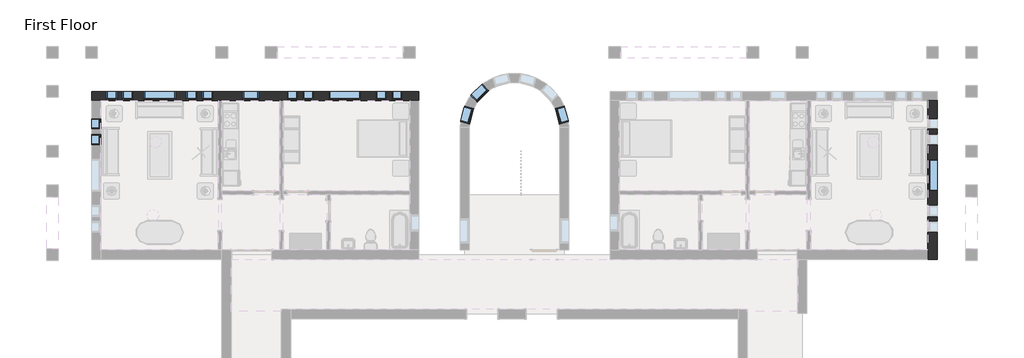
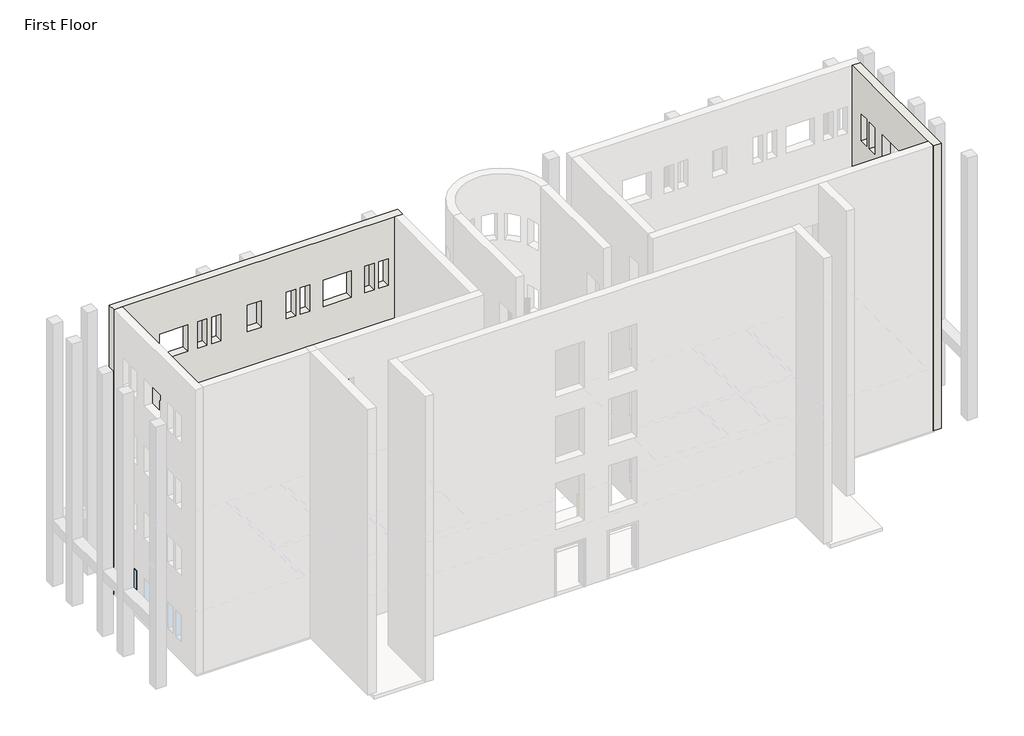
# One storey, part 14 of 23: 17 windows, 2 walls.
"""IFC4 building model written with IfcOpenShell, lengths in millimetres."""

from ifc_helpers import new_model, si_unit, origin, place, context, project, spatial, faceted_brep, transform, mapped, element, save
from components import m_fixed_0406_x_1220mm_57fee329, m_fixed_0406_x_1220mm_85c28f40, m_fixed_0610_x_1220mm_2c28ef1d, m_fixed_0610_x_1220mm_1ea27827, m_fixed_1220_x_1220mm_e08ff7af, m_fixed_1220_x_1220mm_8f5f8ad3

model = new_model("IFC4")

# Units and contexts
model_context = context("Model", 3, world=origin())
ifc_project = project(units=[si_unit("LENGTHUNIT", "METRE", prefix="MILLI")], contexts=[model_context])

# Site, building, storey
site = spatial("IfcSite", under=ifc_project)
building = spatial("IfcBuilding", under=site)
storey = spatial("IfcBuildingStorey", under=building, Name="First Floor", Elevation=0.0)

# Walls
placement = place(None, origin())
element("IfcWall", 1, ObjectType="Exterior - Brick on Mtl. Stud", at=placement, inside=storey, context=model_context, shape_type="Brep", body=[
    faceted_brep([(-3093.3416203, 2406.1188386, 0.0), (-3093.3416203, -3339.8811614, 0.0), (-3093.3416203, -3504.8811614, 0.0), (-3093.3416203, -3689.8811614, 0.0), (-3093.3416203, -3689.8811614, 13107.0), (-3093.3416203, -3339.8811614, 13107.0), (-3093.3416203, 2406.1188386, 13107.0), (-3093.3416203, -1076.8811614, 915.0), (-3093.3416203, 143.1188386, 915.0), (-3093.3416203, 143.1188386, 2135.0), (-3093.3416203, -1076.8811614, 2135.0), (-3093.3416203, 701.1188386, 915.0), (-3093.3416203, 1107.1188386, 915.0), (-3093.3416203, 1107.1188386, 2135.0), (-3093.3416203, 701.1188386, 2135.0), (-3093.3416203, 1311.1188386, 915.0), (-3093.3416203, 1717.1188386, 915.0), (-3093.3416203, 1717.1188386, 2135.0), (-3093.3416203, 1311.1188386, 2135.0), (-3093.3416203, -1634.8811614, 915.0), (-3093.3416203, -1634.8811614, 2135.0), (-3093.3416203, -2040.8811614, 2135.0), (-3093.3416203, -2040.8811614, 915.0), (-3093.3416203, -2244.8811614, 915.0), (-3093.3416203, -2244.8811614, 2135.0), (-3093.3416203, -2650.8811614, 2135.0), (-3093.3416203, -2650.8811614, 915.0), (-3093.3416203, -1634.8811614, 10059.0), (-3093.3416203, -1634.8811614, 11279.0), (-3093.3416203, -2040.8811614, 11279.0), (-3093.3416203, -2040.8811614, 10059.0), (-3093.3416203, -2244.8811614, 10059.0), (-3093.3416203, -2244.8811614, 11279.0), (-3093.3416203, -2650.8811614, 11279.0), (-3093.3416203, -2650.8811614, 10059.0), (-3093.3416203, 701.1188386, 10059.0), (-3093.3416203, 1107.1188386, 10059.0), (-3093.3416203, 1107.1188386, 11279.0), (-3093.3416203, 701.1188386, 11279.0), (-3093.3416203, 1311.1188386, 10059.0), (-3093.3416203, 1717.1188386, 10059.0), (-3093.3416203, 1717.1188386, 11279.0), (-3093.3416203, 1311.1188386, 11279.0), (-3093.3416203, -1076.8811614, 10059.0), (-3093.3416203, 143.1188386, 10059.0), (-3093.3416203, 143.1188386, 11279.0), (-3093.3416203, -1076.8811614, 11279.0), (-3093.3416203, -1634.8811614, 3963.0), (-3093.3416203, -1634.8811614, 5183.0), (-3093.3416203, -2040.8811614, 5183.0), (-3093.3416203, -2040.8811614, 3963.0), (-3093.3416203, -2244.8811614, 3963.0), (-3093.3416203, -2244.8811614, 5183.0), (-3093.3416203, -2650.8811614, 5183.0), (-3093.3416203, -2650.8811614, 3963.0), (-3093.3416203, 701.1188386, 3963.0), (-3093.3416203, 1107.1188386, 3963.0), (-3093.3416203, 1107.1188386, 5183.0), (-3093.3416203, 701.1188386, 5183.0), (-3093.3416203, 1311.1188386, 3963.0), (-3093.3416203, 1717.1188386, 3963.0), (-3093.3416203, 1717.1188386, 5183.0), (-3093.3416203, 1311.1188386, 5183.0), (-3093.3416203, -1076.8811614, 3963.0), (-3093.3416203, 143.1188386, 3963.0), (-3093.3416203, 143.1188386, 5183.0), (-3093.3416203, -1076.8811614, 5183.0), (-3093.3416203, -1634.8811614, 7011.0), (-3093.3416203, -1634.8811614, 8231.0), (-3093.3416203, -2040.8811614, 8231.0), (-3093.3416203, -2040.8811614, 7011.0), (-3093.3416203, -2244.8811614, 7011.0), (-3093.3416203, -2244.8811614, 8231.0), (-3093.3416203, -2650.8811614, 8231.0), (-3093.3416203, -2650.8811614, 7011.0), (-3093.3416203, 701.1188386, 7011.0), (-3093.3416203, 1107.1188386, 7011.0), (-3093.3416203, 1107.1188386, 8231.0), (-3093.3416203, 701.1188386, 8231.0), (-3093.3416203, 1311.1188386, 7011.0), (-3093.3416203, 1717.1188386, 7011.0), (-3093.3416203, 1717.1188386, 8231.0), (-3093.3416203, 1311.1188386, 8231.0), (-3093.3416203, -1076.8811614, 7011.0), (-3093.3416203, 143.1188386, 7011.0), (-3093.3416203, 143.1188386, 8231.0), (-3093.3416203, -1076.8811614, 8231.0), (-2743.3416203, 2406.1188386, 0.0), (-2743.3416203, 2406.1188386, 13107.0), (-2743.3416203, -3689.8811614, 13107.0), (-2743.3416203, -3689.8811614, 0.0), (-2743.3416203, -3504.8811614, 0.0), (-2743.3416203, -1076.8811614, 915.0), (-2743.3416203, -1076.8811614, 2135.0), (-2743.3416203, 143.1188386, 2135.0), (-2743.3416203, 143.1188386, 915.0), (-2743.3416203, 701.1188386, 915.0), (-2743.3416203, 701.1188386, 2135.0), (-2743.3416203, 1107.1188386, 2135.0), (-2743.3416203, 1107.1188386, 915.0), (-2743.3416203, 1311.1188386, 915.0), (-2743.3416203, 1311.1188386, 2135.0), (-2743.3416203, 1717.1188386, 2135.0), (-2743.3416203, 1717.1188386, 915.0), (-2743.3416203, -1634.8811614, 915.0), (-2743.3416203, -2040.8811614, 915.0), (-2743.3416203, -2040.8811614, 2135.0), (-2743.3416203, -1634.8811614, 2135.0), (-2743.3416203, -2244.8811614, 915.0), (-2743.3416203, -2650.8811614, 915.0), (-2743.3416203, -2650.8811614, 2135.0), (-2743.3416203, -2244.8811614, 2135.0), (-2743.3416203, -1634.8811614, 10059.0), (-2743.3416203, -2040.8811614, 10059.0), (-2743.3416203, -2040.8811614, 11279.0), (-2743.3416203, -1634.8811614, 11279.0), (-2743.3416203, -2244.8811614, 10059.0), (-2743.3416203, -2650.8811614, 10059.0), (-2743.3416203, -2650.8811614, 11279.0), (-2743.3416203, -2244.8811614, 11279.0), (-2743.3416203, 701.1188386, 10059.0), (-2743.3416203, 701.1188386, 11279.0), (-2743.3416203, 1107.1188386, 11279.0), (-2743.3416203, 1107.1188386, 10059.0), (-2743.3416203, 1311.1188386, 10059.0), (-2743.3416203, 1311.1188386, 11279.0), (-2743.3416203, 1717.1188386, 11279.0), (-2743.3416203, 1717.1188386, 10059.0), (-2743.3416203, -1076.8811614, 10059.0), (-2743.3416203, -1076.8811614, 11279.0), (-2743.3416203, 143.1188386, 11279.0), (-2743.3416203, 143.1188386, 10059.0), (-2743.3416203, -1634.8811614, 3963.0), (-2743.3416203, -2040.8811614, 3963.0), (-2743.3416203, -2040.8811614, 5183.0), (-2743.3416203, -1634.8811614, 5183.0), (-2743.3416203, -2244.8811614, 3963.0), (-2743.3416203, -2650.8811614, 3963.0), (-2743.3416203, -2650.8811614, 5183.0), (-2743.3416203, -2244.8811614, 5183.0), (-2743.3416203, 701.1188386, 3963.0), (-2743.3416203, 701.1188386, 5183.0), (-2743.3416203, 1107.1188386, 5183.0), (-2743.3416203, 1107.1188386, 3963.0), (-2743.3416203, 1311.1188386, 3963.0), (-2743.3416203, 1311.1188386, 5183.0), (-2743.3416203, 1717.1188386, 5183.0), (-2743.3416203, 1717.1188386, 3963.0), (-2743.3416203, -1076.8811614, 3963.0), (-2743.3416203, -1076.8811614, 5183.0), (-2743.3416203, 143.1188386, 5183.0), (-2743.3416203, 143.1188386, 3963.0), (-2743.3416203, -1634.8811614, 7011.0), (-2743.3416203, -2040.8811614, 7011.0), (-2743.3416203, -2040.8811614, 8231.0), (-2743.3416203, -1634.8811614, 8231.0), (-2743.3416203, -2244.8811614, 7011.0), (-2743.3416203, -2650.8811614, 7011.0), (-2743.3416203, -2650.8811614, 8231.0), (-2743.3416203, -2244.8811614, 8231.0), (-2743.3416203, 701.1188386, 7011.0), (-2743.3416203, 701.1188386, 8231.0), (-2743.3416203, 1107.1188386, 8231.0), (-2743.3416203, 1107.1188386, 7011.0), (-2743.3416203, 1311.1188386, 7011.0), (-2743.3416203, 1311.1188386, 8231.0), (-2743.3416203, 1717.1188386, 8231.0), (-2743.3416203, 1717.1188386, 7011.0), (-2743.3416203, -1076.8811614, 7011.0), (-2743.3416203, -1076.8811614, 8231.0), (-2743.3416203, 143.1188386, 8231.0), (-2743.3416203, 143.1188386, 7011.0), (-2928.3416203, -3689.8811614, 0.0), (-2928.3416203, 2406.1188386, 0.0), (-2928.3416203, -3504.8811614, 0.0)], [[[0, 1, 2, 3, 4, 5, 6], [7, 8, 9, 10], [11, 12, 13, 14], [15, 16, 17, 18], [19, 20, 21, 22], [23, 24, 25, 26], [27, 28, 29, 30], [31, 32, 33, 34], [35, 36, 37, 38], [39, 40, 41, 42], [43, 44, 45, 46], [47, 48, 49, 50], [51, 52, 53, 54], [55, 56, 57, 58], [59, 60, 61, 62], [63, 64, 65, 66], [67, 68, 69, 70], [71, 72, 73, 74], [75, 76, 77, 78], [79, 80, 81, 82], [83, 84, 85, 86]], [[87, 88, 89, 90, 91], [92, 93, 94, 95], [96, 97, 98, 99], [100, 101, 102, 103], [104, 105, 106, 107], [108, 109, 110, 111], [112, 113, 114, 115], [116, 117, 118, 119], [120, 121, 122, 123], [124, 125, 126, 127], [128, 129, 130, 131], [132, 133, 134, 135], [136, 137, 138, 139], [140, 141, 142, 143], [144, 145, 146, 147], [148, 149, 150, 151], [152, 153, 154, 155], [156, 157, 158, 159], [160, 161, 162, 163], [164, 165, 166, 167], [168, 169, 170, 171]], [[6, 5, 4, 89, 88]], [[93, 92, 7, 10]], [[94, 93, 10, 9]], [[95, 94, 9, 8]], [[92, 95, 8, 7]], [[97, 96, 11, 14]], [[98, 97, 14, 13]], [[99, 98, 13, 12]], [[96, 99, 12, 11]], [[101, 100, 15, 18]], [[102, 101, 18, 17]], [[103, 102, 17, 16]], [[100, 103, 16, 15]], [[20, 19, 104, 107]], [[21, 20, 107, 106]], [[22, 21, 106, 105]], [[19, 22, 105, 104]], [[24, 23, 108, 111]], [[25, 24, 111, 110]], [[26, 25, 110, 109]], [[23, 26, 109, 108]], [[28, 27, 112, 115]], [[29, 28, 115, 114]], [[30, 29, 114, 113]], [[27, 30, 113, 112]], [[32, 31, 116, 119]], [[33, 32, 119, 118]], [[34, 33, 118, 117]], [[31, 34, 117, 116]], [[121, 120, 35, 38]], [[122, 121, 38, 37]], [[123, 122, 37, 36]], [[120, 123, 36, 35]], [[125, 124, 39, 42]], [[126, 125, 42, 41]], [[127, 126, 41, 40]], [[124, 127, 40, 39]], [[129, 128, 43, 46]], [[130, 129, 46, 45]], [[131, 130, 45, 44]], [[128, 131, 44, 43]], [[48, 47, 132, 135]], [[49, 48, 135, 134]], [[50, 49, 134, 133]], [[47, 50, 133, 132]], [[52, 51, 136, 139]], [[53, 52, 139, 138]], [[54, 53, 138, 137]], [[51, 54, 137, 136]], [[141, 140, 55, 58]], [[142, 141, 58, 57]], [[143, 142, 57, 56]], [[140, 143, 56, 55]], [[145, 144, 59, 62]], [[146, 145, 62, 61]], [[147, 146, 61, 60]], [[144, 147, 60, 59]], [[149, 148, 63, 66]], [[150, 149, 66, 65]], [[151, 150, 65, 64]], [[148, 151, 64, 63]], [[68, 67, 152, 155]], [[69, 68, 155, 154]], [[70, 69, 154, 153]], [[67, 70, 153, 152]], [[72, 71, 156, 159]], [[73, 72, 159, 158]], [[74, 73, 158, 157]], [[71, 74, 157, 156]], [[161, 160, 75, 78]], [[162, 161, 78, 77]], [[163, 162, 77, 76]], [[160, 163, 76, 75]], [[165, 164, 79, 82]], [[166, 165, 82, 81]], [[167, 166, 81, 80]], [[164, 167, 80, 79]], [[169, 168, 83, 86]], [[170, 169, 86, 85]], [[171, 170, 85, 84]], [[168, 171, 84, 83]], [[4, 3, 172, 90, 89]], [[0, 6, 88, 87, 173]], [[173, 87, 91, 174]], [[3, 2, 174, 172]], [[174, 91, 90, 172]], [[2, 1, 0, 173, 174]]]),
])
element("IfcWall", 2, ObjectType="Exterior - Brick on Mtl. Stud", at=placement, inside=storey, context=model_context, shape_type="Brep", body=[
    faceted_brep([(-22628.8416203, 2756.1188386, 0.0), (-22813.8416203, 2756.1188386, 0.0), (-34985.8416203, 2756.1188386, 0.0), (-35170.8416203, 2756.1188386, 0.0), (-35170.8416203, 2756.1188386, 13107.0), (-22628.8416203, 2756.1188386, 13107.0), (-29376.9916203, 2756.1188386, 915.0), (-28766.9916203, 2756.1188386, 915.0), (-28766.9916203, 2756.1188386, 2135.0), (-29376.9916203, 2756.1188386, 2135.0), (-26080.8416203, 2756.1188386, 915.0), (-24860.8416203, 2756.1188386, 915.0), (-24860.8416203, 2756.1188386, 2135.0), (-26080.8416203, 2756.1188386, 2135.0), (-33178.7166203, 2756.1188386, 915.0), (-31958.7166203, 2756.1188386, 915.0), (-31958.7166203, 2756.1188386, 2135.0), (-33178.7166203, 2756.1188386, 2135.0), (-23666.8416203, 2756.1188386, 915.0), (-23260.8416203, 2756.1188386, 915.0), (-23260.8416203, 2756.1188386, 2135.0), (-23666.8416203, 2756.1188386, 2135.0), (-24276.8416203, 2756.1188386, 915.0), (-23870.8416203, 2756.1188386, 915.0), (-23870.8416203, 2756.1188386, 2135.0), (-24276.8416203, 2756.1188386, 2135.0), (-26664.8416203, 2756.1188386, 915.0), (-26664.8416203, 2756.1188386, 2135.0), (-27070.8416203, 2756.1188386, 2135.0), (-27070.8416203, 2756.1188386, 915.0), (-27274.8416203, 2756.1188386, 915.0), (-27274.8416203, 2756.1188386, 2135.0), (-27680.8416203, 2756.1188386, 2135.0), (-27680.8416203, 2756.1188386, 915.0), (-31543.8416203, 2756.1188386, 915.0), (-31137.8416203, 2756.1188386, 915.0), (-31137.8416203, 2756.1188386, 2135.0), (-31543.8416203, 2756.1188386, 2135.0), (-30933.8416203, 2756.1188386, 915.0), (-30527.8416203, 2756.1188386, 915.0), (-30527.8416203, 2756.1188386, 2135.0), (-30933.8416203, 2756.1188386, 2135.0), (-33593.5916203, 2756.1188386, 915.0), (-33593.5916203, 2756.1188386, 2135.0), (-33999.5916203, 2756.1188386, 2135.0), (-33999.5916203, 2756.1188386, 915.0), (-34203.5916203, 2756.1188386, 915.0), (-34203.5916203, 2756.1188386, 2135.0), (-34609.5916203, 2756.1188386, 2135.0), (-34609.5916203, 2756.1188386, 915.0), (-33593.5916203, 2756.1188386, 10059.0), (-33593.5916203, 2756.1188386, 11279.0), (-33999.5916203, 2756.1188386, 11279.0), (-33999.5916203, 2756.1188386, 10059.0), (-34203.5916203, 2756.1188386, 10059.0), (-34203.5916203, 2756.1188386, 11279.0), (-34609.5916203, 2756.1188386, 11279.0), (-34609.5916203, 2756.1188386, 10059.0), (-31543.8416203, 2756.1188386, 10059.0), (-31137.8416203, 2756.1188386, 10059.0), (-31137.8416203, 2756.1188386, 11279.0), (-31543.8416203, 2756.1188386, 11279.0), (-30933.8416203, 2756.1188386, 10059.0), (-30527.8416203, 2756.1188386, 10059.0), (-30527.8416203, 2756.1188386, 11279.0), (-30933.8416203, 2756.1188386, 11279.0), (-26664.8416203, 2756.1188386, 10059.0), (-26664.8416203, 2756.1188386, 11279.0), (-27070.8416203, 2756.1188386, 11279.0), (-27070.8416203, 2756.1188386, 10059.0), (-27274.8416203, 2756.1188386, 10059.0), (-27274.8416203, 2756.1188386, 11279.0), (-27680.8416203, 2756.1188386, 11279.0), (-27680.8416203, 2756.1188386, 10059.0), (-24276.8416203, 2756.1188386, 10059.0), (-23870.8416203, 2756.1188386, 10059.0), (-23870.8416203, 2756.1188386, 11279.0), (-24276.8416203, 2756.1188386, 11279.0), (-23666.8416203, 2756.1188386, 10059.0), (-23260.8416203, 2756.1188386, 10059.0), (-23260.8416203, 2756.1188386, 11279.0), (-23666.8416203, 2756.1188386, 11279.0), (-33178.7166203, 2756.1188386, 10059.0), (-31958.7166203, 2756.1188386, 10059.0), (-31958.7166203, 2756.1188386, 11279.0), (-33178.7166203, 2756.1188386, 11279.0), (-26080.8416203, 2756.1188386, 10059.0), (-24860.8416203, 2756.1188386, 10059.0), (-24860.8416203, 2756.1188386, 11279.0), (-26080.8416203, 2756.1188386, 11279.0), (-29376.9916203, 2756.1188386, 10059.0), (-28766.9916203, 2756.1188386, 10059.0), (-28766.9916203, 2756.1188386, 11279.0), (-29376.9916203, 2756.1188386, 11279.0), (-33593.5916203, 2756.1188386, 3963.0), (-33593.5916203, 2756.1188386, 5183.0), (-33999.5916203, 2756.1188386, 5183.0), (-33999.5916203, 2756.1188386, 3963.0), (-34203.5916203, 2756.1188386, 3963.0), (-34203.5916203, 2756.1188386, 5183.0), (-34609.5916203, 2756.1188386, 5183.0), (-34609.5916203, 2756.1188386, 3963.0), (-31543.8416203, 2756.1188386, 3963.0), (-31137.8416203, 2756.1188386, 3963.0), (-31137.8416203, 2756.1188386, 5183.0), (-31543.8416203, 2756.1188386, 5183.0), (-30933.8416203, 2756.1188386, 3963.0), (-30527.8416203, 2756.1188386, 3963.0), (-30527.8416203, 2756.1188386, 5183.0), (-30933.8416203, 2756.1188386, 5183.0), (-26664.8416203, 2756.1188386, 3963.0), (-26664.8416203, 2756.1188386, 5183.0), (-27070.8416203, 2756.1188386, 5183.0), (-27070.8416203, 2756.1188386, 3963.0), (-27274.8416203, 2756.1188386, 3963.0), (-27274.8416203, 2756.1188386, 5183.0), (-27680.8416203, 2756.1188386, 5183.0), (-27680.8416203, 2756.1188386, 3963.0), (-24276.8416203, 2756.1188386, 3963.0), (-23870.8416203, 2756.1188386, 3963.0), (-23870.8416203, 2756.1188386, 5183.0), (-24276.8416203, 2756.1188386, 5183.0), (-23666.8416203, 2756.1188386, 3963.0), (-23260.8416203, 2756.1188386, 3963.0), (-23260.8416203, 2756.1188386, 5183.0), (-23666.8416203, 2756.1188386, 5183.0), (-33178.7166203, 2756.1188386, 3963.0), (-31958.7166203, 2756.1188386, 3963.0), (-31958.7166203, 2756.1188386, 5183.0), (-33178.7166203, 2756.1188386, 5183.0), (-26080.8416203, 2756.1188386, 3963.0), (-24860.8416203, 2756.1188386, 3963.0), (-24860.8416203, 2756.1188386, 5183.0), (-26080.8416203, 2756.1188386, 5183.0), (-29376.9916203, 2756.1188386, 3963.0), (-28766.9916203, 2756.1188386, 3963.0), (-28766.9916203, 2756.1188386, 5183.0), (-29376.9916203, 2756.1188386, 5183.0), (-33593.5916203, 2756.1188386, 7011.0), (-33593.5916203, 2756.1188386, 8231.0), (-33999.5916203, 2756.1188386, 8231.0), (-33999.5916203, 2756.1188386, 7011.0), (-34203.5916203, 2756.1188386, 7011.0), (-34203.5916203, 2756.1188386, 8231.0), (-34609.5916203, 2756.1188386, 8231.0), (-34609.5916203, 2756.1188386, 7011.0), (-31543.8416203, 2756.1188386, 7011.0), (-31137.8416203, 2756.1188386, 7011.0), (-31137.8416203, 2756.1188386, 8231.0), (-31543.8416203, 2756.1188386, 8231.0), (-30933.8416203, 2756.1188386, 7011.0), (-30527.8416203, 2756.1188386, 7011.0), (-30527.8416203, 2756.1188386, 8231.0), (-30933.8416203, 2756.1188386, 8231.0), (-26664.8416203, 2756.1188386, 7011.0), (-26664.8416203, 2756.1188386, 8231.0), (-27070.8416203, 2756.1188386, 8231.0), (-27070.8416203, 2756.1188386, 7011.0), (-27274.8416203, 2756.1188386, 7011.0), (-27274.8416203, 2756.1188386, 8231.0), (-27680.8416203, 2756.1188386, 8231.0), (-27680.8416203, 2756.1188386, 7011.0), (-24276.8416203, 2756.1188386, 7011.0), (-23870.8416203, 2756.1188386, 7011.0), (-23870.8416203, 2756.1188386, 8231.0), (-24276.8416203, 2756.1188386, 8231.0), (-23666.8416203, 2756.1188386, 7011.0), (-23260.8416203, 2756.1188386, 7011.0), (-23260.8416203, 2756.1188386, 8231.0), (-23666.8416203, 2756.1188386, 8231.0), (-33178.7166203, 2756.1188386, 7011.0), (-31958.7166203, 2756.1188386, 7011.0), (-31958.7166203, 2756.1188386, 8231.0), (-33178.7166203, 2756.1188386, 8231.0), (-26080.8416203, 2756.1188386, 7011.0), (-24860.8416203, 2756.1188386, 7011.0), (-24860.8416203, 2756.1188386, 8231.0), (-26080.8416203, 2756.1188386, 8231.0), (-29376.9916203, 2756.1188386, 7011.0), (-28766.9916203, 2756.1188386, 7011.0), (-28766.9916203, 2756.1188386, 8231.0), (-29376.9916203, 2756.1188386, 8231.0), (-22628.8416203, 2406.1188386, 0.0), (-22628.8416203, 2406.1188386, 13107.0), (-22978.8416203, 2406.1188386, 13107.0), (-34820.8416203, 2406.1188386, 13107.0), (-35170.8416203, 2406.1188386, 13107.0), (-35170.8416203, 2406.1188386, 0.0), (-34985.8416203, 2406.1188386, 0.0), (-34820.8416203, 2406.1188386, 0.0), (-30316.5916203, 2406.1188386, 0.0), (-30181.0916203, 2406.1188386, 0.0), (-27962.8416203, 2406.1188386, 0.0), (-27827.3416203, 2406.1188386, 0.0), (-22978.8416203, 2406.1188386, 0.0), (-22813.8416203, 2406.1188386, 0.0), (-29376.9916203, 2406.1188386, 915.0), (-29376.9916203, 2406.1188386, 2135.0), (-28766.9916203, 2406.1188386, 2135.0), (-28766.9916203, 2406.1188386, 915.0), (-26080.8416203, 2406.1188386, 915.0), (-26080.8416203, 2406.1188386, 2135.0), (-24860.8416203, 2406.1188386, 2135.0), (-24860.8416203, 2406.1188386, 915.0), (-33178.7166203, 2406.1188386, 915.0), (-33178.7166203, 2406.1188386, 2135.0), (-31958.7166203, 2406.1188386, 2135.0), (-31958.7166203, 2406.1188386, 915.0), (-23666.8416203, 2406.1188386, 915.0), (-23666.8416203, 2406.1188386, 2135.0), (-23260.8416203, 2406.1188386, 2135.0), (-23260.8416203, 2406.1188386, 915.0), (-24276.8416203, 2406.1188386, 915.0), (-24276.8416203, 2406.1188386, 2135.0), (-23870.8416203, 2406.1188386, 2135.0), (-23870.8416203, 2406.1188386, 915.0), (-26664.8416203, 2406.1188386, 915.0), (-27070.8416203, 2406.1188386, 915.0), (-27070.8416203, 2406.1188386, 2135.0), (-26664.8416203, 2406.1188386, 2135.0), (-27274.8416203, 2406.1188386, 915.0), (-27680.8416203, 2406.1188386, 915.0), (-27680.8416203, 2406.1188386, 2135.0), (-27274.8416203, 2406.1188386, 2135.0), (-31543.8416203, 2406.1188386, 915.0), (-31543.8416203, 2406.1188386, 2135.0), (-31137.8416203, 2406.1188386, 2135.0), (-31137.8416203, 2406.1188386, 915.0), (-30933.8416203, 2406.1188386, 915.0), (-30933.8416203, 2406.1188386, 2135.0), (-30527.8416203, 2406.1188386, 2135.0), (-30527.8416203, 2406.1188386, 915.0), (-33593.5916203, 2406.1188386, 915.0), (-33999.5916203, 2406.1188386, 915.0), (-33999.5916203, 2406.1188386, 2135.0), (-33593.5916203, 2406.1188386, 2135.0), (-34203.5916203, 2406.1188386, 915.0), (-34609.5916203, 2406.1188386, 915.0), (-34609.5916203, 2406.1188386, 2135.0), (-34203.5916203, 2406.1188386, 2135.0), (-33593.5916203, 2406.1188386, 10059.0), (-33999.5916203, 2406.1188386, 10059.0), (-33999.5916203, 2406.1188386, 11279.0), (-33593.5916203, 2406.1188386, 11279.0), (-34203.5916203, 2406.1188386, 10059.0), (-34609.5916203, 2406.1188386, 10059.0), (-34609.5916203, 2406.1188386, 11279.0), (-34203.5916203, 2406.1188386, 11279.0), (-31543.8416203, 2406.1188386, 10059.0), (-31543.8416203, 2406.1188386, 11279.0), (-31137.8416203, 2406.1188386, 11279.0), (-31137.8416203, 2406.1188386, 10059.0), (-30933.8416203, 2406.1188386, 10059.0), (-30933.8416203, 2406.1188386, 11279.0), (-30527.8416203, 2406.1188386, 11279.0), (-30527.8416203, 2406.1188386, 10059.0), (-26664.8416203, 2406.1188386, 10059.0), (-27070.8416203, 2406.1188386, 10059.0), (-27070.8416203, 2406.1188386, 11279.0), (-26664.8416203, 2406.1188386, 11279.0), (-27274.8416203, 2406.1188386, 10059.0), (-27680.8416203, 2406.1188386, 10059.0), (-27680.8416203, 2406.1188386, 11279.0), (-27274.8416203, 2406.1188386, 11279.0), (-24276.8416203, 2406.1188386, 10059.0), (-24276.8416203, 2406.1188386, 11279.0), (-23870.8416203, 2406.1188386, 11279.0), (-23870.8416203, 2406.1188386, 10059.0), (-23666.8416203, 2406.1188386, 10059.0), (-23666.8416203, 2406.1188386, 11279.0), (-23260.8416203, 2406.1188386, 11279.0), (-23260.8416203, 2406.1188386, 10059.0), (-33178.7166203, 2406.1188386, 10059.0), (-33178.7166203, 2406.1188386, 11279.0), (-31958.7166203, 2406.1188386, 11279.0), (-31958.7166203, 2406.1188386, 10059.0), (-26080.8416203, 2406.1188386, 10059.0), (-26080.8416203, 2406.1188386, 11279.0), (-24860.8416203, 2406.1188386, 11279.0), (-24860.8416203, 2406.1188386, 10059.0), (-29376.9916203, 2406.1188386, 10059.0), (-29376.9916203, 2406.1188386, 11279.0), (-28766.9916203, 2406.1188386, 11279.0), (-28766.9916203, 2406.1188386, 10059.0), (-33593.5916203, 2406.1188386, 3963.0), (-33999.5916203, 2406.1188386, 3963.0), (-33999.5916203, 2406.1188386, 5183.0), (-33593.5916203, 2406.1188386, 5183.0), (-34203.5916203, 2406.1188386, 3963.0), (-34609.5916203, 2406.1188386, 3963.0), (-34609.5916203, 2406.1188386, 5183.0), (-34203.5916203, 2406.1188386, 5183.0), (-31543.8416203, 2406.1188386, 3963.0), (-31543.8416203, 2406.1188386, 5183.0), (-31137.8416203, 2406.1188386, 5183.0), (-31137.8416203, 2406.1188386, 3963.0), (-30933.8416203, 2406.1188386, 3963.0), (-30933.8416203, 2406.1188386, 5183.0), (-30527.8416203, 2406.1188386, 5183.0), (-30527.8416203, 2406.1188386, 3963.0), (-26664.8416203, 2406.1188386, 3963.0), (-27070.8416203, 2406.1188386, 3963.0), (-27070.8416203, 2406.1188386, 5183.0), (-26664.8416203, 2406.1188386, 5183.0), (-27274.8416203, 2406.1188386, 3963.0), (-27680.8416203, 2406.1188386, 3963.0), (-27680.8416203, 2406.1188386, 5183.0), (-27274.8416203, 2406.1188386, 5183.0), (-24276.8416203, 2406.1188386, 3963.0), (-24276.8416203, 2406.1188386, 5183.0), (-23870.8416203, 2406.1188386, 5183.0), (-23870.8416203, 2406.1188386, 3963.0), (-23666.8416203, 2406.1188386, 3963.0), (-23666.8416203, 2406.1188386, 5183.0), (-23260.8416203, 2406.1188386, 5183.0), (-23260.8416203, 2406.1188386, 3963.0), (-33178.7166203, 2406.1188386, 3963.0), (-33178.7166203, 2406.1188386, 5183.0), (-31958.7166203, 2406.1188386, 5183.0), (-31958.7166203, 2406.1188386, 3963.0), (-26080.8416203, 2406.1188386, 3963.0), (-26080.8416203, 2406.1188386, 5183.0), (-24860.8416203, 2406.1188386, 5183.0), (-24860.8416203, 2406.1188386, 3963.0), (-29376.9916203, 2406.1188386, 3963.0), (-29376.9916203, 2406.1188386, 5183.0), (-28766.9916203, 2406.1188386, 5183.0), (-28766.9916203, 2406.1188386, 3963.0), (-33593.5916203, 2406.1188386, 7011.0), (-33999.5916203, 2406.1188386, 7011.0), (-33999.5916203, 2406.1188386, 8231.0), (-33593.5916203, 2406.1188386, 8231.0), (-34203.5916203, 2406.1188386, 7011.0), (-34609.5916203, 2406.1188386, 7011.0), (-34609.5916203, 2406.1188386, 8231.0), (-34203.5916203, 2406.1188386, 8231.0), (-31543.8416203, 2406.1188386, 7011.0), (-31543.8416203, 2406.1188386, 8231.0), (-31137.8416203, 2406.1188386, 8231.0), (-31137.8416203, 2406.1188386, 7011.0), (-30933.8416203, 2406.1188386, 7011.0), (-30933.8416203, 2406.1188386, 8231.0), (-30527.8416203, 2406.1188386, 8231.0), (-30527.8416203, 2406.1188386, 7011.0), (-26664.8416203, 2406.1188386, 7011.0), (-27070.8416203, 2406.1188386, 7011.0), (-27070.8416203, 2406.1188386, 8231.0), (-26664.8416203, 2406.1188386, 8231.0), (-27274.8416203, 2406.1188386, 7011.0), (-27680.8416203, 2406.1188386, 7011.0), (-27680.8416203, 2406.1188386, 8231.0), (-27274.8416203, 2406.1188386, 8231.0), (-24276.8416203, 2406.1188386, 7011.0), (-24276.8416203, 2406.1188386, 8231.0), (-23870.8416203, 2406.1188386, 8231.0), (-23870.8416203, 2406.1188386, 7011.0), (-23666.8416203, 2406.1188386, 7011.0), (-23666.8416203, 2406.1188386, 8231.0), (-23260.8416203, 2406.1188386, 8231.0), (-23260.8416203, 2406.1188386, 7011.0), (-33178.7166203, 2406.1188386, 7011.0), (-33178.7166203, 2406.1188386, 8231.0), (-31958.7166203, 2406.1188386, 8231.0), (-31958.7166203, 2406.1188386, 7011.0), (-26080.8416203, 2406.1188386, 7011.0), (-26080.8416203, 2406.1188386, 8231.0), (-24860.8416203, 2406.1188386, 8231.0), (-24860.8416203, 2406.1188386, 7011.0), (-29376.9916203, 2406.1188386, 7011.0), (-29376.9916203, 2406.1188386, 8231.0), (-28766.9916203, 2406.1188386, 8231.0), (-28766.9916203, 2406.1188386, 7011.0), (-35170.8416203, 2571.1188386, 0.0), (-22628.8416203, 2571.1188386, 0.0), (-34985.8416203, 2571.1188386, 0.0), (-22813.8416203, 2571.1188386, 0.0)], [[[0, 1, 2, 3, 4, 5], [6, 7, 8, 9], [10, 11, 12, 13], [14, 15, 16, 17], [18, 19, 20, 21], [22, 23, 24, 25], [26, 27, 28, 29], [30, 31, 32, 33], [34, 35, 36, 37], [38, 39, 40, 41], [42, 43, 44, 45], [46, 47, 48, 49], [50, 51, 52, 53], [54, 55, 56, 57], [58, 59, 60, 61], [62, 63, 64, 65], [66, 67, 68, 69], [70, 71, 72, 73], [74, 75, 76, 77], [78, 79, 80, 81], [82, 83, 84, 85], [86, 87, 88, 89], [90, 91, 92, 93], [94, 95, 96, 97], [98, 99, 100, 101], [102, 103, 104, 105], [106, 107, 108, 109], [110, 111, 112, 113], [114, 115, 116, 117], [118, 119, 120, 121], [122, 123, 124, 125], [126, 127, 128, 129], [130, 131, 132, 133], [134, 135, 136, 137], [138, 139, 140, 141], [142, 143, 144, 145], [146, 147, 148, 149], [150, 151, 152, 153], [154, 155, 156, 157], [158, 159, 160, 161], [162, 163, 164, 165], [166, 167, 168, 169], [170, 171, 172, 173], [174, 175, 176, 177], [178, 179, 180, 181]], [[182, 183, 184, 185, 186, 187, 188, 189, 190, 191, 192, 193, 194, 195], [196, 197, 198, 199], [200, 201, 202, 203], [204, 205, 206, 207], [208, 209, 210, 211], [212, 213, 214, 215], [216, 217, 218, 219], [220, 221, 222, 223], [224, 225, 226, 227], [228, 229, 230, 231], [232, 233, 234, 235], [236, 237, 238, 239], [240, 241, 242, 243], [244, 245, 246, 247], [248, 249, 250, 251], [252, 253, 254, 255], [256, 257, 258, 259], [260, 261, 262, 263], [264, 265, 266, 267], [268, 269, 270, 271], [272, 273, 274, 275], [276, 277, 278, 279], [280, 281, 282, 283], [284, 285, 286, 287], [288, 289, 290, 291], [292, 293, 294, 295], [296, 297, 298, 299], [300, 301, 302, 303], [304, 305, 306, 307], [308, 309, 310, 311], [312, 313, 314, 315], [316, 317, 318, 319], [320, 321, 322, 323], [324, 325, 326, 327], [328, 329, 330, 331], [332, 333, 334, 335], [336, 337, 338, 339], [340, 341, 342, 343], [344, 345, 346, 347], [348, 349, 350, 351], [352, 353, 354, 355], [356, 357, 358, 359], [360, 361, 362, 363], [364, 365, 366, 367], [368, 369, 370, 371]], [[5, 4, 186, 185, 184, 183]], [[4, 3, 372, 187, 186]], [[0, 5, 183, 182, 373]], [[197, 196, 6, 9]], [[198, 197, 9, 8]], [[199, 198, 8, 7]], [[196, 199, 7, 6]], [[201, 200, 10, 13]], [[202, 201, 13, 12]], [[203, 202, 12, 11]], [[200, 203, 11, 10]], [[205, 204, 14, 17]], [[206, 205, 17, 16]], [[207, 206, 16, 15]], [[204, 207, 15, 14]], [[209, 208, 18, 21]], [[210, 209, 21, 20]], [[211, 210, 20, 19]], [[208, 211, 19, 18]], [[213, 212, 22, 25]], [[214, 213, 25, 24]], [[215, 214, 24, 23]], [[212, 215, 23, 22]], [[27, 26, 216, 219]], [[28, 27, 219, 218]], [[29, 28, 218, 217]], [[26, 29, 217, 216]], [[31, 30, 220, 223]], [[32, 31, 223, 222]], [[33, 32, 222, 221]], [[30, 33, 221, 220]], [[225, 224, 34, 37]], [[226, 225, 37, 36]], [[227, 226, 36, 35]], [[224, 227, 35, 34]], [[229, 228, 38, 41]], [[230, 229, 41, 40]], [[231, 230, 40, 39]], [[228, 231, 39, 38]], [[43, 42, 232, 235]], [[44, 43, 235, 234]], [[45, 44, 234, 233]], [[42, 45, 233, 232]], [[47, 46, 236, 239]], [[48, 47, 239, 238]], [[49, 48, 238, 237]], [[46, 49, 237, 236]], [[374, 188, 187, 372]], [[3, 2, 374, 372]], [[2, 1, 375, 374]], [[51, 50, 240, 243]], [[52, 51, 243, 242]], [[53, 52, 242, 241]], [[50, 53, 241, 240]], [[55, 54, 244, 247]], [[56, 55, 247, 246]], [[57, 56, 246, 245]], [[54, 57, 245, 244]], [[249, 248, 58, 61]], [[250, 249, 61, 60]], [[251, 250, 60, 59]], [[248, 251, 59, 58]], [[253, 252, 62, 65]], [[254, 253, 65, 64]], [[255, 254, 64, 63]], [[252, 255, 63, 62]], [[67, 66, 256, 259]], [[68, 67, 259, 258]], [[69, 68, 258, 257]], [[66, 69, 257, 256]], [[71, 70, 260, 263]], [[72, 71, 263, 262]], [[73, 72, 262, 261]], [[70, 73, 261, 260]], [[265, 264, 74, 77]], [[266, 265, 77, 76]], [[267, 266, 76, 75]], [[264, 267, 75, 74]], [[269, 268, 78, 81]], [[270, 269, 81, 80]], [[271, 270, 80, 79]], [[268, 271, 79, 78]], [[273, 272, 82, 85]], [[274, 273, 85, 84]], [[275, 274, 84, 83]], [[272, 275, 83, 82]], [[277, 276, 86, 89]], [[278, 277, 89, 88]], [[279, 278, 88, 87]], [[276, 279, 87, 86]], [[281, 280, 90, 93]], [[282, 281, 93, 92]], [[283, 282, 92, 91]], [[280, 283, 91, 90]], [[95, 94, 284, 287]], [[96, 95, 287, 286]], [[97, 96, 286, 285]], [[94, 97, 285, 284]], [[99, 98, 288, 291]], [[100, 99, 291, 290]], [[101, 100, 290, 289]], [[98, 101, 289, 288]], [[293, 292, 102, 105]], [[294, 293, 105, 104]], [[295, 294, 104, 103]], [[292, 295, 103, 102]], [[297, 296, 106, 109]], [[298, 297, 109, 108]], [[299, 298, 108, 107]], [[296, 299, 107, 106]], [[111, 110, 300, 303]], [[112, 111, 303, 302]], [[113, 112, 302, 301]], [[110, 113, 301, 300]], [[115, 114, 304, 307]], [[116, 115, 307, 306]], [[117, 116, 306, 305]], [[114, 117, 305, 304]], [[309, 308, 118, 121]], [[310, 309, 121, 120]], [[311, 310, 120, 119]], [[308, 311, 119, 118]], [[313, 312, 122, 125]], [[314, 313, 125, 124]], [[315, 314, 124, 123]], [[312, 315, 123, 122]], [[317, 316, 126, 129]], [[318, 317, 129, 128]], [[319, 318, 128, 127]], [[316, 319, 127, 126]], [[321, 320, 130, 133]], [[322, 321, 133, 132]], [[323, 322, 132, 131]], [[320, 323, 131, 130]], [[325, 324, 134, 137]], [[326, 325, 137, 136]], [[327, 326, 136, 135]], [[324, 327, 135, 134]], [[139, 138, 328, 331]], [[140, 139, 331, 330]], [[141, 140, 330, 329]], [[138, 141, 329, 328]], [[143, 142, 332, 335]], [[144, 143, 335, 334]], [[145, 144, 334, 333]], [[142, 145, 333, 332]], [[337, 336, 146, 149]], [[338, 337, 149, 148]], [[339, 338, 148, 147]], [[336, 339, 147, 146]], [[341, 340, 150, 153]], [[342, 341, 153, 152]], [[343, 342, 152, 151]], [[340, 343, 151, 150]], [[155, 154, 344, 347]], [[156, 155, 347, 346]], [[157, 156, 346, 345]], [[154, 157, 345, 344]], [[159, 158, 348, 351]], [[160, 159, 351, 350]], [[161, 160, 350, 349]], [[158, 161, 349, 348]], [[353, 352, 162, 165]], [[354, 353, 165, 164]], [[355, 354, 164, 163]], [[352, 355, 163, 162]], [[357, 356, 166, 169]], [[358, 357, 169, 168]], [[359, 358, 168, 167]], [[356, 359, 167, 166]], [[361, 360, 170, 173]], [[362, 361, 173, 172]], [[363, 362, 172, 171]], [[360, 363, 171, 170]], [[365, 364, 174, 177]], [[366, 365, 177, 176]], [[367, 366, 176, 175]], [[364, 367, 175, 174]], [[369, 368, 178, 181]], [[370, 369, 181, 180]], [[371, 370, 180, 179]], [[368, 371, 179, 178]], [[373, 182, 195, 375]], [[1, 0, 373, 375]], [[375, 195, 194, 193, 192, 191, 190, 189, 188, 374]]]),
])

# Windows
m_fixed_0406_x_1220mm_shape = m_fixed_0406_x_1220mm_57fee329(model_context)
element("IfcWindow", 3, ObjectType="M_Fixed : 0406 x 1220mm", at=placement, inside=storey, context=model_context, shape_type="MappedRepresentation", body=[
    mapped(m_fixed_0406_x_1220mm_shape, transform((-27477.8416203, 2594.1188386, 0.0), x_axis=(-1.0, 0.0, 0.0), y_axis=(0.0, -1.0, 0.0), z_axis=(0.0, 0.0, 1.0))),
])
element("IfcWindow", 4, ObjectType="M_Fixed : 0406 x 1220mm", at=placement, inside=storey, context=model_context, shape_type="MappedRepresentation", body=[
    mapped(m_fixed_0406_x_1220mm_shape, transform((-26867.8416203, 2594.1188386, 0.0), x_axis=(-1.0, 0.0, 0.0), y_axis=(0.0, -1.0, 0.0), z_axis=(0.0, 0.0, 1.0))),
])
element("IfcWindow", 5, ObjectType="M_Fixed : 0406 x 1220mm", at=placement, inside=storey, context=model_context, shape_type="MappedRepresentation", body=[
    mapped(m_fixed_0406_x_1220mm_shape, transform((-34406.5916203, 2594.1188386, 0.0), x_axis=(-1.0, 0.0, 0.0), y_axis=(0.0, -1.0, 0.0), z_axis=(0.0, 0.0, 1.0))),
])
element("IfcWindow", 6, ObjectType="M_Fixed : 0406 x 1220mm", at=placement, inside=storey, context=model_context, shape_type="MappedRepresentation", body=[
    mapped(m_fixed_0406_x_1220mm_shape, transform((-33796.5916203, 2594.1188386, 0.0), x_axis=(-1.0, 0.0, 0.0), y_axis=(0.0, -1.0, 0.0), z_axis=(0.0, 0.0, 1.0))),
])
m_fixed_0406_x_1220mm_2_shape = m_fixed_0406_x_1220mm_85c28f40(model_context)
element("IfcWindow", 7, ObjectType="M_Fixed : 0406 x 1220mm", at=placement, inside=storey, context=model_context, shape_type="MappedRepresentation", body=[
    mapped(m_fixed_0406_x_1220mm_2_shape, transform((-23463.8416203, 2594.1188386, 0.0), x_axis=(1.0, 0.0, 0.0), y_axis=(0.0, 1.0, 0.0), z_axis=(0.0, 0.0, 1.0))),
])
element("IfcWindow", 8, ObjectType="M_Fixed : 0406 x 1220mm", at=placement, inside=storey, context=model_context, shape_type="MappedRepresentation", body=[
    mapped(m_fixed_0406_x_1220mm_2_shape, transform((-24073.8416203, 2594.1188386, 0.0), x_axis=(1.0, 0.0, 0.0), y_axis=(0.0, 1.0, 0.0), z_axis=(0.0, 0.0, 1.0))),
])
element("IfcWindow", 9, ObjectType="M_Fixed : 0406 x 1220mm", at=placement, inside=storey, context=model_context, shape_type="MappedRepresentation", body=[
    mapped(m_fixed_0406_x_1220mm_2_shape, transform((-30730.8416203, 2594.1188386, 0.0), x_axis=(1.0, 0.0, 0.0), y_axis=(0.0, 1.0, 0.0), z_axis=(0.0, 0.0, 1.0))),
])
element("IfcWindow", 10, ObjectType="M_Fixed : 0406 x 1220mm", at=placement, inside=storey, context=model_context, shape_type="MappedRepresentation", body=[
    mapped(m_fixed_0406_x_1220mm_2_shape, transform((-31340.8416203, 2594.1188386, 0.0), x_axis=(1.0, 0.0, 0.0), y_axis=(0.0, 1.0, 0.0), z_axis=(0.0, 0.0, 1.0))),
])
element("IfcWindow", 11, ObjectType="M_Fixed : 0406 x 1220mm", at=placement, inside=storey, context=model_context, shape_type="MappedRepresentation", body=[
    mapped(m_fixed_0406_x_1220mm_2_shape, transform((-35008.8416203, 1514.1188386, 0.0), x_axis=(0.0, 1.0, 0.0), y_axis=(-1.0, 0.0, 0.0), z_axis=(0.0, 0.0, 1.0))),
])
element("IfcWindow", 12, ObjectType="M_Fixed : 0406 x 1220mm", at=placement, inside=storey, context=model_context, shape_type="MappedRepresentation", body=[
    mapped(m_fixed_0406_x_1220mm_2_shape, transform((-35008.8416203, 904.1188386, 0.0), x_axis=(0.0, 1.0, 0.0), y_axis=(-1.0, 0.0, 0.0), z_axis=(0.0, 0.0, 1.0))),
])
m_fixed_0610_x_1220mm_shape = m_fixed_0610_x_1220mm_2c28ef1d(model_context)
element("IfcWindow", 13, ObjectType="M_Fixed : 0610 x 1220mm", at=placement, inside=storey, context=model_context, shape_type="MappedRepresentation", body=[
    mapped(m_fixed_0610_x_1220mm_shape, transform((-20788.0201619, 1852.7146627, 0.0), x_axis=(-0.2588190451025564, -0.9659258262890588, 0.0), y_axis=(0.9659258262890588, -0.2588190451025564, 0.0), z_axis=(0.0, 0.0, 1.0))),
])
element("IfcWindow", 14, ObjectType="M_Fixed : 0610 x 1220mm", at=placement, inside=storey, context=model_context, shape_type="MappedRepresentation", body=[
    mapped(m_fixed_0610_x_1220mm_shape, transform((-20297.4243378, 2702.4515561, 0.0), x_axis=(-0.7071067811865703, -0.7071067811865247, 0.0), y_axis=(0.7071067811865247, -0.7071067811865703, 0.0), z_axis=(0.0, 0.0, 1.0))),
])
m_fixed_0610_x_1220mm_2_shape = m_fixed_0610_x_1220mm_1ea27827(model_context)
element("IfcWindow", 15, ObjectType="M_Fixed : 0610 x 1220mm", at=placement, inside=storey, context=model_context, shape_type="MappedRepresentation", body=[
    mapped(m_fixed_0610_x_1220mm_2_shape, transform((-17126.1630788, 1852.7146627, 0.0), x_axis=(0.2588190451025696, -0.9659258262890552, 0.0), y_axis=(0.9659258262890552, 0.2588190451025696, 0.0), z_axis=(0.0, 0.0, 1.0))),
])
element("IfcWindow", 16, ObjectType="M_Fixed : 0610 x 1220mm", at=placement, inside=storey, context=model_context, shape_type="MappedRepresentation", body=[
    mapped(m_fixed_0610_x_1220mm_2_shape, transform((-29071.9916203, 2594.1188386, 0.0), x_axis=(1.0, 0.0, 0.0), y_axis=(0.0, 1.0, 0.0), z_axis=(0.0, 0.0, 1.0))),
])
m_fixed_1220_x_1220mm_shape = m_fixed_1220_x_1220mm_e08ff7af(model_context)
element("IfcWindow", 17, ObjectType="M_Fixed : 1220 x 1220mm", at=placement, inside=storey, context=model_context, shape_type="MappedRepresentation", body=[
    mapped(m_fixed_1220_x_1220mm_shape, transform((-2905.3416203, -466.8811614, 0.0), x_axis=(0.0, 1.0, 0.0), y_axis=(-1.0, 0.0, 0.0), z_axis=(0.0, 0.0, 1.0))),
])
m_fixed_1220_x_1220mm_2_shape = m_fixed_1220_x_1220mm_8f5f8ad3(model_context)
element("IfcWindow", 18, ObjectType="M_Fixed : 1220 x 1220mm", at=placement, inside=storey, context=model_context, shape_type="MappedRepresentation", body=[
    mapped(m_fixed_1220_x_1220mm_2_shape, transform((-25470.8416203, 2594.1188386, 0.0), x_axis=(1.0, 0.0, 0.0), y_axis=(0.0, 1.0, 0.0), z_axis=(0.0, 0.0, 1.0))),
])
element("IfcWindow", 19, ObjectType="M_Fixed : 1220 x 1220mm", at=placement, inside=storey, context=model_context, shape_type="MappedRepresentation", body=[
    mapped(m_fixed_1220_x_1220mm_2_shape, transform((-32568.7166203, 2594.1188386, 0.0), x_axis=(1.0, 0.0, 0.0), y_axis=(0.0, 1.0, 0.0), z_axis=(0.0, 0.0, 1.0))),
])

save(model, "model.ifc")
